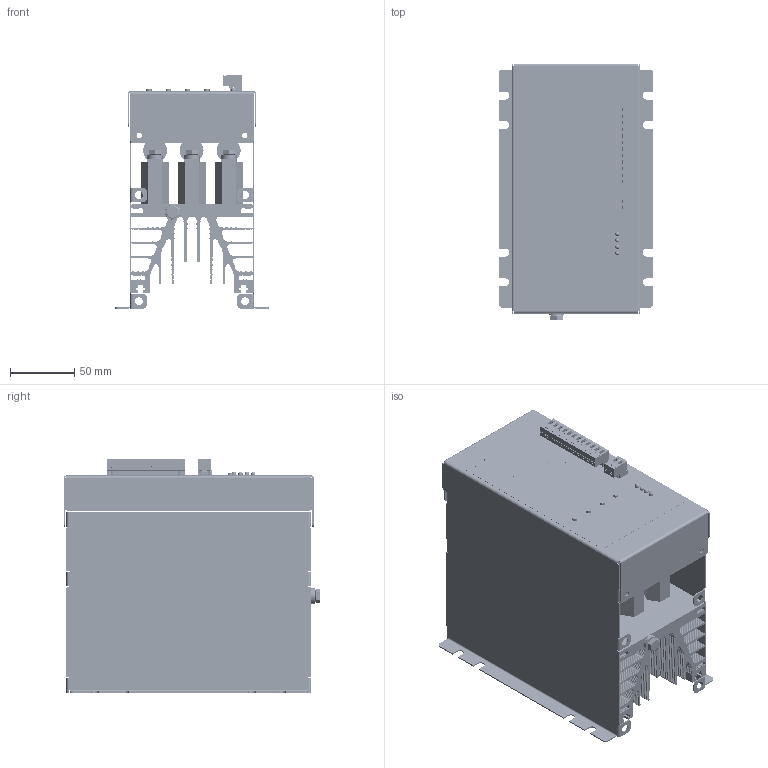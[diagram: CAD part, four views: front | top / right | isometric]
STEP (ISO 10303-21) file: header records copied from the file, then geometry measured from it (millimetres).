
FILE_DESCRIPTION(('STEP AP203'), '1');
FILE_NAME('ﾒﾐﾌ-2ﾌ-30...45 RS485; ﾒﾐﾌ-3ﾌ-30 RS485; ﾒﾐﾌ-3ﾌN-30 RS485', '', ('UNSPECIFIED'), ('UNSPECIFIED'), 'C3D Converter', 'C3D Toolkit', '');
FILE_SCHEMA(('CONFIG_CONTROL_DESIGN'));
Length unit declared in the file: millimetre
Products named in the file (2): Болт М6х14
Assembly tree (10 placements, depth 2):
  (unnamed)
    Болт М6х14  x10
Bounding box: 120 x 199.21 x 181.05 mm (x, y, z)
Volume: 696284.3 mm3; surface area: 525881.2 mm2
Topology: 12 solids, 28 shells, 8497 faces, 24642 edges, 16392 vertices
Faces by surface type: plane 4587, cylinder 2252, extrusion 1510, torus 50, bspline 50, cone 44, sphere 4
Full cylindrical faces by diameter (mm): 3 x3, 3.1 x14, 3.3 x8, 3.9 x14, 4 x8, 4.2 x4, 6 x20, 6.1 x12, 6.4 x10, 8 x1, 8.8 x1, 8.9 x10, 12 x10, 14 x3, 18.5 x6
Entity records: 366025 total; most frequent: CARTESIAN_POINT 89707, ORIENTED_EDGE 46734, DIRECTION 39281, EDGE_CURVE 23367, VECTOR 17321, LINE 15811, VERTEX_POINT 15620, AXIS2_PLACEMENT_3D 10980
